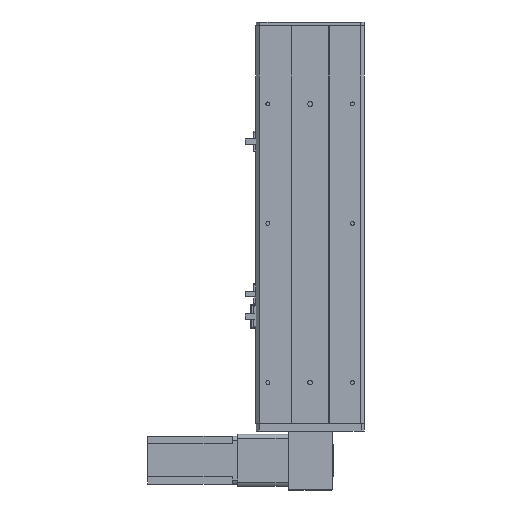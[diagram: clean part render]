
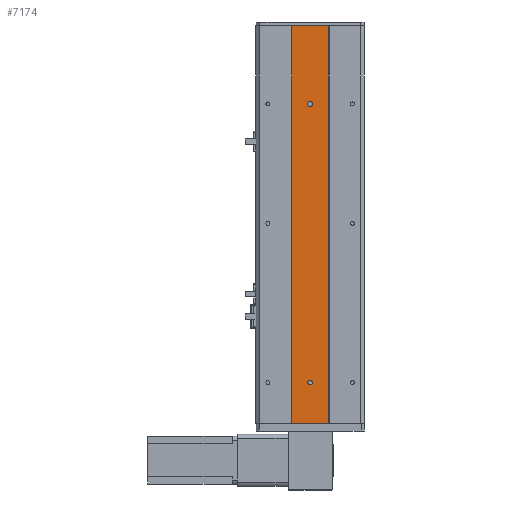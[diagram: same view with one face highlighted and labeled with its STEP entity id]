
A CAD part, front view. The second image highlights one B-rep face of the part: STEP entity #7174.
In plain terms, the highlighted planar face has unit normal (0, -1, 0).
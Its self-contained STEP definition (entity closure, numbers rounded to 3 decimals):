
#139 = EDGE_LOOP ( 'NONE', ( #16406, #19322 ) ) ;
#789 = EDGE_CURVE ( 'NONE', #24688, #10824, #1206, .T. ) ;
#1206 = LINE ( 'NONE', #8469, #22551 ) ;
#1466 = CIRCLE ( 'NONE', #22566, 3. ) ;
#1695 = CIRCLE ( 'NONE', #12309, 3. ) ;
#1901 = DIRECTION ( 'NONE',  ( 0., 0., 1. ) ) ;
#1909 = VERTEX_POINT ( 'NONE', #5452 ) ;
#2363 = DIRECTION ( 'NONE',  ( 0., 0., 1. ) ) ;
#3117 = FACE_BOUND ( 'NONE', #23463, .T. ) ;
#3534 = EDGE_LOOP ( 'NONE', ( #7270, #20317, #3669, #21224 ) ) ;
#3669 = ORIENTED_EDGE ( 'NONE', *, *, #5396, .F. ) ;
#3873 = CARTESIAN_POINT ( 'NONE',  ( 45., -8.6, -499. ) ) ;
#4618 = CARTESIAN_POINT ( 'NONE',  ( 68., -8.6, -98. ) ) ;
#5396 = EDGE_CURVE ( 'NONE', #24688, #1909, #11372, .T. ) ;
#5452 = CARTESIAN_POINT ( 'NONE',  ( 45., -8.6, -499. ) ) ;
#5739 = CARTESIAN_POINT ( 'NONE',  ( 45., -8.6, -499. ) ) ;
#5897 = VERTEX_POINT ( 'NONE', #18947 ) ;
#6585 = DIRECTION ( 'NONE',  ( -1., 0., 0. ) ) ;
#6803 = AXIS2_PLACEMENT_3D ( 'NONE', #20328, #8652, #22288 ) ;
#6866 = CARTESIAN_POINT ( 'NONE',  ( 68., -8.6, -98. ) ) ;
#7174 = ADVANCED_FACE ( 'NONE', ( #3117, #12836, #23243 ), #11607, .F. ) ;
#7270 = ORIENTED_EDGE ( 'NONE', *, *, #9192, .T. ) ;
#7401 = LINE ( 'NONE', #9019, #21699 ) ;
#7403 = ORIENTED_EDGE ( 'NONE', *, *, #15706, .T. ) ;
#8093 = CARTESIAN_POINT ( 'NONE',  ( 45., -8.6, 0. ) ) ;
#8189 = EDGE_CURVE ( 'NONE', #1909, #21966, #16165, .T. ) ;
#8469 = CARTESIAN_POINT ( 'NONE',  ( 91., -8.6, -499. ) ) ;
#8652 = DIRECTION ( 'NONE',  ( 0., 1., 0. ) ) ;
#8805 = DIRECTION ( 'NONE',  ( -1., 0., 0. ) ) ;
#9019 = CARTESIAN_POINT ( 'NONE',  ( 45., -8.6, 0. ) ) ;
#9192 = EDGE_CURVE ( 'NONE', #10824, #21966, #7401, .T. ) ;
#9649 = CARTESIAN_POINT ( 'NONE',  ( 45., -8.6, -499. ) ) ;
#9958 = VERTEX_POINT ( 'NONE', #25012 ) ;
#10294 = EDGE_CURVE ( 'NONE', #24437, #5897, #22569, .T. ) ;
#10824 = VERTEX_POINT ( 'NONE', #14846 ) ;
#11327 = CARTESIAN_POINT ( 'NONE',  ( 68., -8.6, -448. ) ) ;
#11372 = LINE ( 'NONE', #5739, #11963 ) ;
#11558 = VECTOR ( 'NONE', #1901, 1000. ) ;
#11607 = PLANE ( 'NONE',  #13560 ) ;
#11963 = VECTOR ( 'NONE', #19377, 1000. ) ;
#12309 = AXIS2_PLACEMENT_3D ( 'NONE', #6866, #20489, #8805 ) ;
#12836 = FACE_BOUND ( 'NONE', #139, .T. ) ;
#13281 = DIRECTION ( 'NONE',  ( -1., 0., 0. ) ) ;
#13483 = DIRECTION ( 'NONE',  ( 0., 1., 0. ) ) ;
#13560 = AXIS2_PLACEMENT_3D ( 'NONE', #9649, #13483, #13569 ) ;
#13569 = DIRECTION ( 'NONE',  ( -1., 0., 0. ) ) ;
#14443 = CARTESIAN_POINT ( 'NONE',  ( 68., -8.6, -445. ) ) ;
#14448 = ORIENTED_EDGE ( 'NONE', *, *, #22769, .T. ) ;
#14846 = CARTESIAN_POINT ( 'NONE',  ( 91., -8.6, 0. ) ) ;
#15706 = EDGE_CURVE ( 'NONE', #9958, #24489, #1466, .T. ) ;
#16163 = CARTESIAN_POINT ( 'NONE',  ( 68., -8.6, -101. ) ) ;
#16165 = LINE ( 'NONE', #3873, #11558 ) ;
#16406 = ORIENTED_EDGE ( 'NONE', *, *, #10294, .T. ) ;
#16571 = CARTESIAN_POINT ( 'NONE',  ( 91., -8.6, -499. ) ) ;
#18242 = DIRECTION ( 'NONE',  ( 0., 1., 0. ) ) ;
#18947 = CARTESIAN_POINT ( 'NONE',  ( 68., -8.6, -95. ) ) ;
#19322 = ORIENTED_EDGE ( 'NONE', *, *, #23309, .T. ) ;
#19377 = DIRECTION ( 'NONE',  ( -1., 0., 0. ) ) ;
#20317 = ORIENTED_EDGE ( 'NONE', *, *, #8189, .F. ) ;
#20328 = CARTESIAN_POINT ( 'NONE',  ( 68., -8.6, -448. ) ) ;
#20489 = DIRECTION ( 'NONE',  ( 0., 1., 0. ) ) ;
#21224 = ORIENTED_EDGE ( 'NONE', *, *, #789, .T. ) ;
#21699 = VECTOR ( 'NONE', #24541, 1000. ) ;
#21966 = VERTEX_POINT ( 'NONE', #8093 ) ;
#22288 = DIRECTION ( 'NONE',  ( -1., 0., 0. ) ) ;
#22459 = CIRCLE ( 'NONE', #6803, 3. ) ;
#22551 = VECTOR ( 'NONE', #2363, 1000. ) ;
#22566 = AXIS2_PLACEMENT_3D ( 'NONE', #11327, #24992, #13281 ) ;
#22569 = CIRCLE ( 'NONE', #25169, 3. ) ;
#22769 = EDGE_CURVE ( 'NONE', #24489, #9958, #22459, .T. ) ;
#23243 = FACE_OUTER_BOUND ( 'NONE', #3534, .T. ) ;
#23309 = EDGE_CURVE ( 'NONE', #5897, #24437, #1695, .T. ) ;
#23463 = EDGE_LOOP ( 'NONE', ( #7403, #14448 ) ) ;
#24437 = VERTEX_POINT ( 'NONE', #16163 ) ;
#24489 = VERTEX_POINT ( 'NONE', #14443 ) ;
#24541 = DIRECTION ( 'NONE',  ( -1., 0., 0. ) ) ;
#24688 = VERTEX_POINT ( 'NONE', #16571 ) ;
#24992 = DIRECTION ( 'NONE',  ( 0., 1., 0. ) ) ;
#25012 = CARTESIAN_POINT ( 'NONE',  ( 68., -8.6, -451. ) ) ;
#25169 = AXIS2_PLACEMENT_3D ( 'NONE', #4618, #18242, #6585 ) ;
